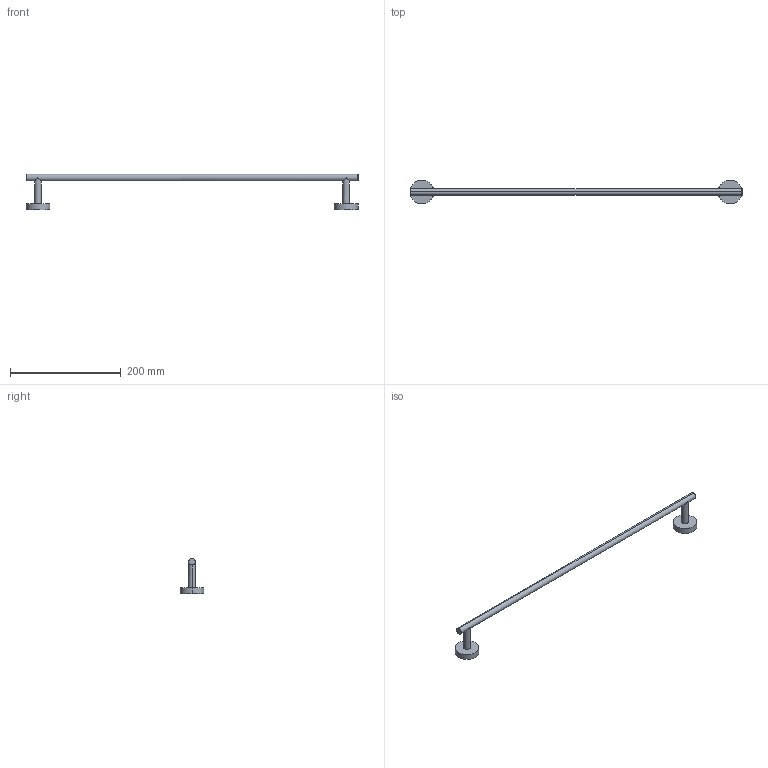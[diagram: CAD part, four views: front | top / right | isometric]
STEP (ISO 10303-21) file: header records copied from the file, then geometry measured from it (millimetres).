
FILE_DESCRIPTION((''),'2;1');
FILE_NAME('8930721_ASM','2026-01-27T11:01:55',('carloff'),(''),'CREO PARAMETRIC BY PTC INC, 2022014','CREO PARAMETRIC BY PTC INC, 2022014','');
FILE_SCHEMA(('CONFIG_CONTROL_DESIGN'));
Length unit declared in the file: millimetre
Products named in the file (2): A750210342; 8930721_ASM
Assembly tree (1 placements, depth 2):
  8930721_ASM
    A750210342
Bounding box: 600 x 43 x 64 mm (x, y, z)
Volume: 109283 mm3; surface area: 34338.2 mm2
Topology: 1 solids, 1 shells, 24 faces, 52 edges, 32 vertices
Faces by surface type: cylinder 10, torus 8, plane 6
Entity records: 827 total; most frequent: CARTESIAN_POINT 223, DIRECTION 130, ORIENTED_EDGE 104, AXIS2_PLACEMENT_3D 59, EDGE_CURVE 52, VERTEX_POINT 32, CIRCLE 32, EDGE_LOOP 26
